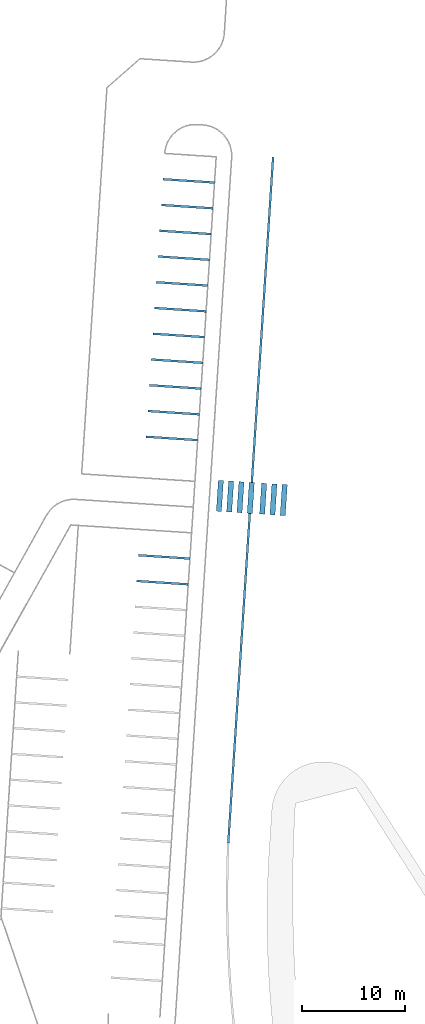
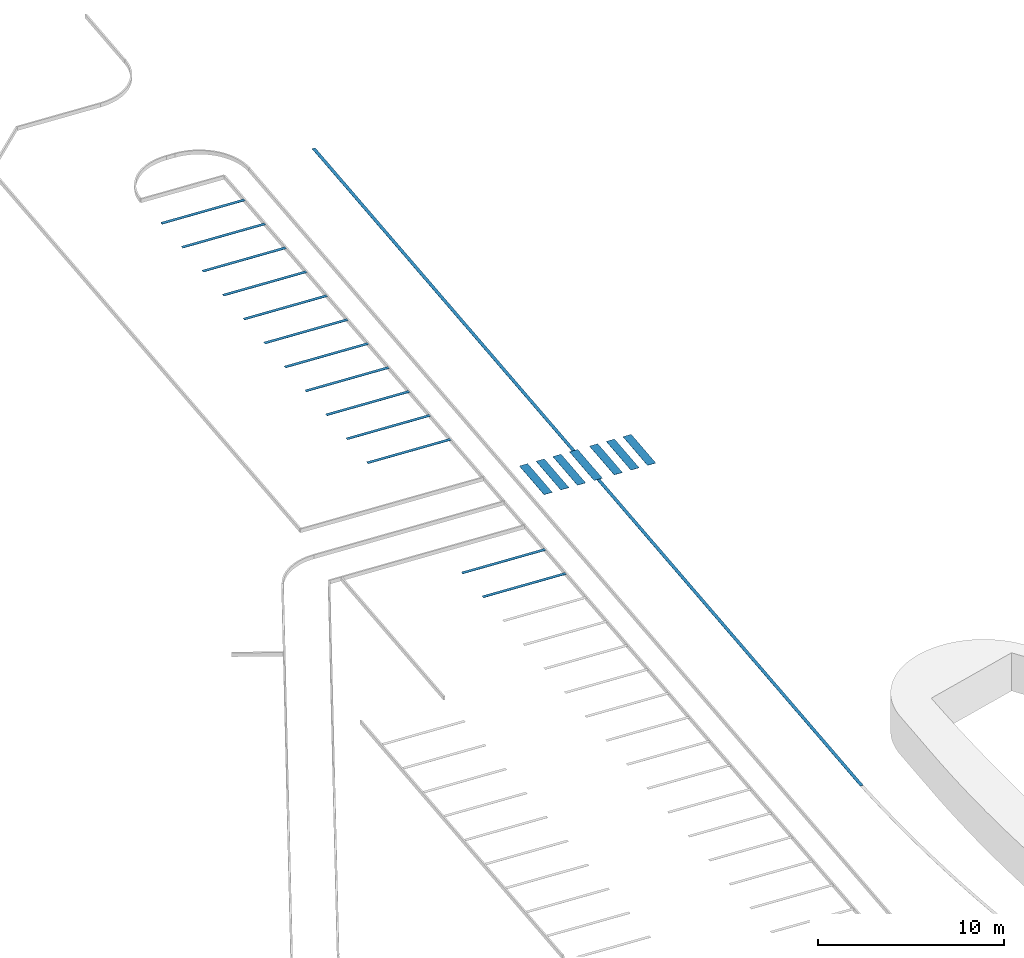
# One storey, part 81 of 112: 21 walls.
"""IFC2X3 building model written with IfcOpenShell, lengths in millimetres."""

from ifc_helpers import new_model, entity, si_unit, converted_unit, derived_unit, direction, frame, frame_2d, origin, origin_2d_with_axis, place, context, subcontext, project, spatial, polyline, rectangle, outline, extrude, material, type_object, element, save


model = new_model("IFC2X3")

# Units and contexts
model_context = context("Model", 3, precision=0.01, world=origin(), true_north=direction((6.123031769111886e-17, 1.0)))
body_context = subcontext(model_context, "Body", "Model", "MODEL_VIEW")
ifc_project = project(units=[si_unit("LENGTHUNIT", "METRE", prefix="MILLI"), si_unit("AREAUNIT", "SQUARE_METRE"), si_unit("VOLUMEUNIT", "CUBIC_METRE"), converted_unit("PLANEANGLEUNIT", "DEGREE", entity("IfcRatioMeasure", 0.017453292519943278), si_unit("PLANEANGLEUNIT", "RADIAN"), dimensions=[0, 0, 0, 0, 0, 0, 0]), si_unit("MASSUNIT", "GRAM", prefix="KILO"), derived_unit("MASSDENSITYUNIT", [(si_unit("MASSUNIT", "GRAM", prefix="KILO"), 1), (si_unit("LENGTHUNIT", "METRE"), -3)]), derived_unit("MOMENTOFINERTIAUNIT", [(si_unit("LENGTHUNIT", "METRE"), 4)]), si_unit("TIMEUNIT", "SECOND"), si_unit("FREQUENCYUNIT", "HERTZ"), si_unit("THERMODYNAMICTEMPERATUREUNIT", "DEGREE_CELSIUS"), derived_unit("THERMALTRANSMITTANCEUNIT", [(si_unit("MASSUNIT", "GRAM", prefix="KILO"), 1), (si_unit("THERMODYNAMICTEMPERATUREUNIT", "KELVIN"), -1), (si_unit("TIMEUNIT", "SECOND"), -3)]), derived_unit("THERMALCONDUCTANCEUNIT", [(si_unit("MASSUNIT", "GRAM", prefix="KILO"), 1), (si_unit("LENGTHUNIT", "METRE"), 1), (si_unit("THERMODYNAMICTEMPERATUREUNIT", "KELVIN"), -1), (si_unit("TIMEUNIT", "SECOND"), -3)]), derived_unit("VOLUMETRICFLOWRATEUNIT", [(si_unit("LENGTHUNIT", "METRE"), 3), (si_unit("TIMEUNIT", "SECOND"), -1)]), derived_unit("MASSFLOWRATEUNIT", [(si_unit("MASSUNIT", "GRAM", prefix="KILO"), 1), (si_unit("TIMEUNIT", "SECOND"), -1)]), derived_unit("ROTATIONALFREQUENCYUNIT", [(si_unit("TIMEUNIT", "SECOND"), -1)]), si_unit("ELECTRICCURRENTUNIT", "AMPERE"), si_unit("ELECTRICVOLTAGEUNIT", "VOLT"), si_unit("POWERUNIT", "WATT"), converted_unit("FORCEUNIT", "KIP", entity("IfcRatioMeasure", 2.088543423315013e-05), si_unit("FORCEUNIT", "NEWTON"), dimensions=[1, 1, -2, 0, 0, 0, 0]), si_unit("ILLUMINANCEUNIT", "LUX"), si_unit("LUMINOUSFLUXUNIT", "LUMEN"), si_unit("LUMINOUSINTENSITYUNIT", "CANDELA"), derived_unit("USERDEFINED", [(si_unit("MASSUNIT", "GRAM", prefix="KILO"), -1), (si_unit("LENGTHUNIT", "METRE"), -2), (si_unit("TIMEUNIT", "SECOND"), 3), (si_unit("LUMINOUSFLUXUNIT", "LUMEN"), 1)]), derived_unit("USERDEFINED", [(si_unit("MASSUNIT", "GRAM", prefix="KILO"), 1), (si_unit("LENGTHUNIT", "METRE"), 3), (si_unit("TIMEUNIT", "SECOND"), -3), (si_unit("ELECTRICCURRENTUNIT", "AMPERE"), -2)]), derived_unit("USERDEFINED", [(si_unit("LENGTHUNIT", "METRE"), 2), (si_unit("TIMEUNIT", "SECOND"), -2)]), derived_unit("SOUNDPOWERUNIT", [(si_unit("MASSUNIT", "GRAM", prefix="KILO"), 1), (si_unit("LENGTHUNIT", "METRE"), 2), (si_unit("TIMEUNIT", "SECOND"), -3)]), derived_unit("SOUNDPRESSUREUNIT", [(si_unit("MASSUNIT", "GRAM", prefix="KILO"), 1), (si_unit("LENGTHUNIT", "METRE"), -1), (si_unit("TIMEUNIT", "SECOND"), -2)]), derived_unit("LINEARVELOCITYUNIT", [(si_unit("LENGTHUNIT", "METRE"), 1), (si_unit("TIMEUNIT", "SECOND"), -1)]), si_unit("PRESSUREUNIT", "PASCAL"), derived_unit("USERDEFINED", [(si_unit("LENGTHUNIT", "METRE"), -2), (si_unit("MASSUNIT", "GRAM", prefix="KILO"), 1), (si_unit("TIMEUNIT", "SECOND"), -2)]), derived_unit("LINEARFORCEUNIT", [(si_unit("MASSUNIT", "GRAM", prefix="KILO"), 1), (si_unit("LENGTHUNIT", "METRE"), 1), (si_unit("TIMEUNIT", "SECOND"), -2), (si_unit("LENGTHUNIT", "METRE"), -1)]), derived_unit("PLANARFORCEUNIT", [(si_unit("MASSUNIT", "GRAM", prefix="KILO"), 1), (si_unit("LENGTHUNIT", "METRE"), 1), (si_unit("TIMEUNIT", "SECOND"), -2), (si_unit("LENGTHUNIT", "METRE"), -2)]), derived_unit("SPECIFICHEATCAPACITYUNIT", [(si_unit("LENGTHUNIT", "METRE"), 2), (si_unit("TIMEUNIT", "SECOND"), -2), (si_unit("THERMODYNAMICTEMPERATUREUNIT", "KELVIN"), -1)]), derived_unit("VAPORPERMEABILITYUNIT", [(si_unit("TIMEUNIT", "SECOND"), 1), (si_unit("LENGTHUNIT", "METRE"), -1)]), derived_unit("DYNAMICVISCOSITYUNIT", [(si_unit("MASSUNIT", "GRAM", prefix="KILO"), 1), (si_unit("LENGTHUNIT", "METRE"), -1), (si_unit("TIMEUNIT", "SECOND"), -1)]), derived_unit("THERMALEXPANSIONCOEFFICIENTUNIT", [(si_unit("THERMODYNAMICTEMPERATUREUNIT", "KELVIN"), -1)])], contexts=[model_context])

# Site, building, storey
site_placement = place(None, frame((0.0, 0.0, 0.0), z_axis=(0.0, 0.0, 1.0), x_axis=(0.8191520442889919, 0.5735764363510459, 0.0)))
site = spatial("IfcSite", under=ifc_project, at=site_placement, Name="Default", CompositionType="ELEMENT")
building_placement = place(site_placement, origin())
building = spatial("IfcBuilding", under=site, at=building_placement, CompositionType="ELEMENT")
storey_placement = place(building_placement, frame((0.0, 0.0, -3600.0)))
storey = spatial("IfcBuildingStorey", under=building, at=storey_placement, Name="0.UG -3.60", CompositionType="ELEMENT", Elevation=-3600.0000000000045)

# Walls
ifc_material = material(Name="road_markirovka")
wall_type_1 = type_object("IfcWallType", Name="16", PredefinedType="NOTDEFINED", material=ifc_material)
wall_1_placement = place(storey_placement, frame((145529.71990627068, 184864.17718051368, 1050.0)))
element("IfcWall", 1, at=wall_1_placement, inside=storey, type_object=wall_type_1, material=ifc_material, Name="16:16", ObjectType="16:16", context=body_context, shape_type="SweptSolid", body=[
    extrude(rectangle(XDim=199.99999999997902, YDim=4999.99999907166, at=frame_2d((2.1522339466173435e-11, 2.864908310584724e-11), x_axis=(1.0, 0.0))), frame((2012.4635610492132, 1642.5940189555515, 0.0), z_axis=(0.0, 0.0, 1.0), x_axis=(0.6258395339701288, 0.7799518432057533, 0.0)), (0.0, 0.0, 1.0), 9.999999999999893),
])
wall_type_2 = type_object("IfcWallType", Name="16", PredefinedType="NOTDEFINED", material=ifc_material)
wall_2_placement = place(storey_placement, frame((142400.52223641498, 180964.4179642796, 1050.0)))
element("IfcWall", 2, at=wall_2_placement, inside=storey, type_object=wall_type_2, material=ifc_material, Name="16 203180:16 203180", ObjectType="16 203180:16 203180", context=body_context, shape_type="SweptSolid", body=[
    extrude(rectangle(XDim=200.00000000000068, YDim=4999.999999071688, at=frame_2d((2.7071678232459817e-11, 2.1827872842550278e-11), x_axis=(1.0, 0.0))), frame((2012.4635610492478, 1642.5940189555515, 0.0), z_axis=(0.0, 0.0, 1.0), x_axis=(0.6258395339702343, 0.7799518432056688, 0.0)), (0.0, 0.0, 1.0), 9.999999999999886),
])
wall_type_3 = type_object("IfcWallType", Name="16", PredefinedType="NOTDEFINED", material=ifc_material)
wall_3_placement = place(storey_placement, frame((140835.92340151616, 179014.5383561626, 1050.0)))
element("IfcWall", 3, at=wall_3_placement, inside=storey, type_object=wall_type_3, material=ifc_material, Name="16 203186:16 203186", ObjectType="16 203186:16 203186", context=body_context, shape_type="SweptSolid", body=[
    extrude(rectangle(XDim=199.99999999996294, YDim=4999.999999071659, at=frame_2d((2.7071678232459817e-12, 2.432898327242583e-11), x_axis=(1.0, 0.0))), frame((2012.4635610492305, 1642.5940189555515, 0.0), z_axis=(0.0, 0.0, 1.0), x_axis=(0.6258395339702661, 0.7799518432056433, 0.0)), (0.0, 0.0, 1.0), 9.999999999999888),
])
wall_type_4 = type_object("IfcWallType", Name="16", PredefinedType="NOTDEFINED", material=ifc_material)
wall_4_placement = place(storey_placement, frame((147094.31874122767, 186814.0567886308, 1050.0)))
element("IfcWall", 4, at=wall_4_placement, inside=storey, type_object=wall_type_4, material=ifc_material, Name="16 203189:16 203189", ObjectType="16 203189:16 203189", context=body_context, shape_type="SweptSolid", body=[
    extrude(rectangle(XDim=199.99999999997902, YDim=4999.999999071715, at=frame_2d((2.6936675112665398e-11, 2.1827872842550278e-11), x_axis=(1.0, 0.0))), frame((2012.4635610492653, 1642.5940189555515, 0.0), z_axis=(0.0, 0.0, 1.0), x_axis=(0.6258395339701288, 0.7799518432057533, 0.0)), (0.0, 0.0, 1.0), 9.999999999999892),
])
wall_type_5 = type_object("IfcWallType", Name="16", PredefinedType="NOTDEFINED", material=ifc_material)
wall_5_placement = place(storey_placement, frame((143965.1210713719, 182914.2975723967, 1050.0)))
element("IfcWall", 5, at=wall_5_placement, inside=storey, type_object=wall_type_5, material=ifc_material, Name="16 203214:16 203214", ObjectType="16 203214:16 203214", context=body_context, shape_type="SweptSolid", body=[
    extrude(rectangle(XDim=199.9999999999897, YDim=4999.999999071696, at=origin_2d_with_axis()), frame((2012.4635610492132, 1642.5940189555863, 0.0), z_axis=(0.0, 0.0, 1.0), x_axis=(0.6258395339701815, 0.7799518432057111, 0.0)), (0.0, 0.0, 1.0), 9.999999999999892),
])
wall_type_6 = type_object("IfcWallType", Name="16", PredefinedType="NOTDEFINED", material=ifc_material)
wall_6_placement = place(storey_placement, frame((148658.91757612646, 188763.93639674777, 1050.0)))
element("IfcWall", 6, at=wall_6_placement, inside=storey, type_object=wall_type_6, material=ifc_material, Name="16 204934:16 204934", ObjectType="16 204934:16 204934", context=body_context, shape_type="SweptSolid", body=[
    extrude(rectangle(XDim=199.99999999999, YDim=4999.999999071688, at=frame_2d((2.6936675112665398e-11, 2.1600499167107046e-11), x_axis=(1.0, 0.0))), frame((2012.4635610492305, 1642.5940189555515, 0.0), z_axis=(0.0, 0.0, 1.0), x_axis=(0.6258395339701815, 0.7799518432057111, 0.0)), (0.0, 0.0, 1.0), 9.999999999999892),
])
wall_type_7 = type_object("IfcWallType", Name="16", PredefinedType="NOTDEFINED", material=ifc_material)
wall_7_placement = place(storey_placement, frame((137706.7257315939, 175114.7791399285, 1050.0)))
element("IfcWall", 7, at=wall_7_placement, inside=storey, type_object=wall_type_7, material=ifc_material, Name="16 204936:16 204936", ObjectType="16 204936:16 204936", context=body_context, shape_type="SweptSolid", body=[
    extrude(rectangle(XDim=200.00000000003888, YDim=4999.999999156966, at=origin_2d_with_axis()), frame((2012.4635610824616, 1642.5940189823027, 0.0), z_axis=(0.0, 0.0, 1.0), x_axis=(0.6258395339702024, 0.7799518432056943, 0.0)), (0.0, 0.0, 1.0), 9.999999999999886),
])
wall_type_8 = type_object("IfcWallType", Name="16", PredefinedType="NOTDEFINED", material=ifc_material)
wall_8_placement = place(storey_placement, frame((139271.32456655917, 177064.6587480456, 1050.0)))
element("IfcWall", 8, at=wall_8_placement, inside=storey, type_object=wall_type_8, material=ifc_material, Name="16 204938:16 204938", ObjectType="16 204938:16 204938", context=body_context, shape_type="SweptSolid", body=[
    extrude(rectangle(XDim=200.0000000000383, YDim=4999.999999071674, at=frame_2d((-2.4229507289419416e-11, 2.7284841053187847e-12), x_axis=(1.0, 0.0))), frame((2012.4635610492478, 1642.5940189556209, 0.0), z_axis=(0.0, 0.0, 1.0), x_axis=(0.6258395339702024, 0.7799518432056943, 0.0)), (0.0, 0.0, 1.0), 9.999999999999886),
])
wall_type_9 = type_object("IfcWallType", Name="16", PredefinedType="NOTDEFINED", material=ifc_material)
wall_9_placement = place(storey_placement, frame((134577.52806164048, 171215.0199236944, 1050.0)))
element("IfcWall", 9, at=wall_9_placement, inside=storey, type_object=wall_type_9, material=ifc_material, Name="16 204940:16 204940", ObjectType="16 204940:16 204940", context=body_context, shape_type="SweptSolid", body=[
    extrude(rectangle(XDim=200.0000000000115, YDim=4999.99999928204, at=frame_2d((8.121503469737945e-12, 1.750777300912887e-11), x_axis=(1.0, 0.0))), frame((2012.4635611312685, 1642.5940190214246, 0.0), z_axis=(0.0, 0.0, 1.0), x_axis=(0.6258395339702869, 0.7799518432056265, 0.0)), (0.0, 0.0, 1.0), 9.999999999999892),
])
wall_type_10 = type_object("IfcWallType", Name="16", PredefinedType="NOTDEFINED", material=ifc_material)
wall_10_placement = place(storey_placement, frame((133012.92922665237, 169265.14031557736, 1050.0)))
element("IfcWall", 10, at=wall_10_placement, inside=storey, type_object=wall_type_10, material=ifc_material, Name="16 204943:16 204943", ObjectType="16 204943:16 204943", context=body_context, shape_type="SweptSolid", body=[
    extrude(rectangle(XDim=200.00000000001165, YDim=4999.999999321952, at=frame_2d((2.6936675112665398e-11, 2.1600499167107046e-11), x_axis=(1.0, 0.0))), frame((2012.4635611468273, 1642.5940190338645, 0.0), z_axis=(0.0, 0.0, 1.0), x_axis=(0.6258395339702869, 0.7799518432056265, 0.0)), (0.0, 0.0, 1.0), 9.999999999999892),
])
wall_type_11 = type_object("IfcWallType", Name="16", PredefinedType="NOTDEFINED", material=ifc_material)
wall_11_placement = place(storey_placement, frame((136142.12689660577, 173164.89953181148, 1050.0)))
element("IfcWall", 11, at=wall_11_placement, inside=storey, type_object=wall_type_11, material=ifc_material, Name="16 204944:16 204944", ObjectType="16 204944:16 204944", context=body_context, shape_type="SweptSolid", body=[
    extrude(rectangle(XDim=200.00000000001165, YDim=4999.999999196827, at=frame_2d((-1.3535839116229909e-11, -1.0913936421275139e-11), x_axis=(1.0, 0.0))), frame((2012.4635610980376, 1642.5940189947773, 0.0), z_axis=(0.0, 0.0, 1.0), x_axis=(0.6258395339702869, 0.7799518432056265, 0.0)), (0.0, 0.0, 1.0), 9.999999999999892),
])
wall_type_12 = type_object("IfcWallType", Name="15", PredefinedType="NOTDEFINED", material=ifc_material)
wall_12_placement = place(storey_placement, frame((125815.7743967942, 160295.69388457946, 1050.0)))
element("IfcWall", 12, at=wall_12_placement, inside=storey, type_object=wall_type_12, material=ifc_material, Name="15:15", ObjectType="15:15", context=body_context, shape_type="SweptSolid", body=[
    extrude(rectangle(XDim=199.99999999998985, YDim=5000.000000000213, at=frame_2d((2.4364510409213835e-11, -2.7284841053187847e-12), x_axis=(1.0, 0.0))), frame((2012.463561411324, 1642.5940192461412, 0.0), z_axis=(0.0, 0.0, 1.0), x_axis=(0.6258395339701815, 0.7799518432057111, 0.0)), (0.0, 0.0, 1.0), 9.999999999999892),
])
wall_type_13 = type_object("IfcWallType", Name="14", PredefinedType="NOTDEFINED", material=ifc_material)
wall_13_placement = place(storey_placement, frame((124251.17556186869, 158345.8142765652, 1050.0)))
element("IfcWall", 13, at=wall_13_placement, inside=storey, type_object=wall_type_13, material=ifc_material, Name="14:14", ObjectType="14:14", context=body_context, shape_type="SweptSolid", body=[
    extrude(rectangle(XDim=200.00000000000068, YDim=5000.000000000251, at=frame_2d((-8.121503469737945e-12, -1.750777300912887e-11), x_axis=(1.0, 0.0))), frame((2012.463561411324, 1642.5940192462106, 0.0), z_axis=(0.0, 0.0, 1.0), x_axis=(0.6258395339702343, 0.7799518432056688, 0.0)), (0.0, 0.0, 1.0), 9.999999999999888),
])
wall_type_14 = type_object("IfcWallType", Name="04", PredefinedType="NOTDEFINED", material=ifc_material)
wall_14_placement = place(storey_placement, frame((116952.49631481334, 135631.47477821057, 950.0), z_axis=(0.0, 0.0, 1.0), x_axis=(0.0, 1.0, 0.0)))
element("IfcWall", 14, at=wall_14_placement, inside=storey, type_object=wall_type_14, material=ifc_material, Name="04 206380:04 206380", ObjectType="04 206380:04 206380", context=body_context, shape_type="SweptSolid", body=[
    extrude(outline(polyline([(-100.0, -33274.326661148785), (100.0, -33274.326661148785), (100.0, 33275.433876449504), (-100.0, 33273.219445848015), (-100.0, -33274.326661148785)])), frame((26015.186225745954, -20901.712530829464, 0.0), z_axis=(0.0, 0.0, 1.0), x_axis=(0.625798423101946, 0.7799848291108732, 0.0)), (0.0, 0.0, 1.0), 9.999999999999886),
])
wall_type_15 = type_object("IfcWallType", Name="81", PredefinedType="NOTDEFINED", material=ifc_material)
wall_15_placement = place(storey_placement, frame((135286.12183469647, 161731.22370277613, 950.0), z_axis=(0.0, 0.0, 1.0), x_axis=(0.0, 1.0, 0.0)))
element("IfcWall", 15, at=wall_15_placement, inside=storey, type_object=wall_type_15, material=ifc_material, Name="81 207315:81 207315", ObjectType="81 207315:81 207315", context=body_context, shape_type="SweptSolid", body=[
    extrude(rectangle(XDim=500.00000000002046, YDim=3000.0000000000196, at=frame_2d((2.4371615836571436e-11, -2.7284841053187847e-12), x_axis=(1.0, 0.0))), frame((1326.3878511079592, -1133.746985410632, 0.0), z_axis=(0.0, 0.0, 1.0), x_axis=(0.6258393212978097, 0.7799520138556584, 0.0)), (0.0, 0.0, 1.0), 9.999999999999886),
])
wall_type_16 = type_object("IfcWallType", Name="81", PredefinedType="NOTDEFINED", material=ifc_material)
wall_16_placement = place(storey_placement, frame((138561.92029289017, 159102.69855332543, 950.0), z_axis=(0.0, 0.0, 1.0), x_axis=(0.0, 1.0, 0.0)))
element("IfcWall", 16, at=wall_16_placement, inside=storey, type_object=wall_type_16, material=ifc_material, Name="81 207316:81 207316", ObjectType="81 207316:81 207316", context=body_context, shape_type="SweptSolid", body=[
    extrude(rectangle(XDim=500.00000000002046, YDim=2999.999999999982, at=frame_2d((-6.778577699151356e-12, -5.4569682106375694e-12), x_axis=(1.0, 0.0))), frame((1326.3878511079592, -1133.7469854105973, 0.0), z_axis=(0.0, 0.0, 1.0), x_axis=(0.6258393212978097, 0.7799520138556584, 0.0)), (0.0, 0.0, 1.0), 9.999999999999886),
])
wall_type_17 = type_object("IfcWallType", Name="81", PredefinedType="NOTDEFINED", material=ifc_material)
wall_17_placement = place(storey_placement, frame((139341.87230674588, 158476.85923202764, 950.0), z_axis=(0.0, 0.0, 1.0), x_axis=(0.0, 1.0, 0.0)))
element("IfcWall", 17, at=wall_17_placement, inside=storey, type_object=wall_type_17, material=ifc_material, Name="81 207317:81 207317", ObjectType="81 207317:81 207317", context=body_context, shape_type="SweptSolid", body=[
    extrude(rectangle(XDim=500.00000000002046, YDim=3000.0000000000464, at=frame_2d((1.354294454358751e-11, 1.0800249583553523e-11), x_axis=(1.0, 0.0))), frame((1326.387851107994, -1133.746985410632, 0.0), z_axis=(0.0, 0.0, 1.0), x_axis=(0.6258393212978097, 0.7799520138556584, 0.0)), (0.0, 0.0, 1.0), 9.999999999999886),
])
wall_type_18 = type_object("IfcWallType", Name="81", PredefinedType="NOTDEFINED", material=ifc_material)
wall_18_placement = place(storey_placement, frame((137781.96827903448, 159728.53787462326, 950.0), z_axis=(0.0, 0.0, 1.0), x_axis=(0.0, 1.0, 0.0)))
element("IfcWall", 18, at=wall_18_placement, inside=storey, type_object=wall_type_18, material=ifc_material, Name="81 207319:81 207319", ObjectType="81 207319:81 207319", context=body_context, shape_type="SweptSolid", body=[
    extrude(rectangle(XDim=500.00000000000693, YDim=2999.999999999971, at=frame_2d((-1.0828671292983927e-11, 1.3528733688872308e-11), x_axis=(1.0, 0.0))), frame((1326.3878511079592, -1133.7469854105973, 0.0), z_axis=(0.0, 0.0, 1.0), x_axis=(0.6258393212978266, 0.7799520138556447, 0.0)), (0.0, 0.0, 1.0), 9.999999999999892),
])
wall_type_19 = type_object("IfcWallType", Name="81", PredefinedType="NOTDEFINED", material=ifc_material)
wall_19_placement = place(storey_placement, frame((136846.02586240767, 160479.54506018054, 950.0), z_axis=(0.0, 0.0, 1.0), x_axis=(0.0, 1.0, 0.0)))
element("IfcWall", 19, at=wall_19_placement, inside=storey, type_object=wall_type_19, material=ifc_material, Name="81 207322:81 207322", ObjectType="81 207322:81 207322", context=body_context, shape_type="SweptSolid", body=[
    extrude(rectangle(XDim=499.9999999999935, YDim=3000.000000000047, at=frame_2d((1.3528733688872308e-11, 1.0800249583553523e-11), x_axis=(1.0, 0.0))), frame((1326.387851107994, -1133.746985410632, 0.0), z_axis=(0.0, 0.0, 1.0), x_axis=(0.6258393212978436, 0.7799520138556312, 0.0)), (0.0, 0.0, 1.0), 9.999999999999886),
])
wall_type_20 = type_object("IfcWallType", Name="81", PredefinedType="NOTDEFINED", material=ifc_material)
wall_20_placement = place(storey_placement, frame((136066.07384855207, 161105.38438147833, 950.0), z_axis=(0.0, 0.0, 1.0), x_axis=(0.0, 1.0, 0.0)))
element("IfcWall", 20, at=wall_20_placement, inside=storey, type_object=wall_type_20, material=ifc_material, Name="81 207327:81 207327", ObjectType="81 207327:81 207327", context=body_context, shape_type="SweptSolid", body=[
    extrude(rectangle(XDim=500.00000000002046, YDim=3000.0000000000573, at=origin_2d_with_axis()), frame((1326.387851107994, -1133.7469854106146, 0.0), z_axis=(0.0, 0.0, 1.0), x_axis=(0.6258393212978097, 0.7799520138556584, 0.0)), (0.0, 0.0, 1.0), 9.999999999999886),
])
wall_type_21 = type_object("IfcWallType", Name="81", PredefinedType="NOTDEFINED", material=ifc_material)
wall_21_placement = place(storey_placement, frame((134506.16982084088, 162357.06302407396, 950.0), z_axis=(0.0, 0.0, 1.0), x_axis=(0.0, 1.0, 0.0)))
element("IfcWall", 21, at=wall_21_placement, inside=storey, type_object=wall_type_21, material=ifc_material, Name="81 207328:81 207328", ObjectType="81 207328:81 207328", context=body_context, shape_type="SweptSolid", body=[
    extrude(rectangle(XDim=499.99999999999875, YDim=3000.000000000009, at=frame_2d((1.759303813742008e-11, -8.185452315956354e-12), x_axis=(1.0, 0.0))), frame((1326.3878511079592, -1133.7469854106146, 0.0), z_axis=(0.0, 0.0, 1.0), x_axis=(0.6258393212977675, 0.7799520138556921, 0.0)), (0.0, 0.0, 1.0), 9.999999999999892),
])

save(model, "model.ifc")
